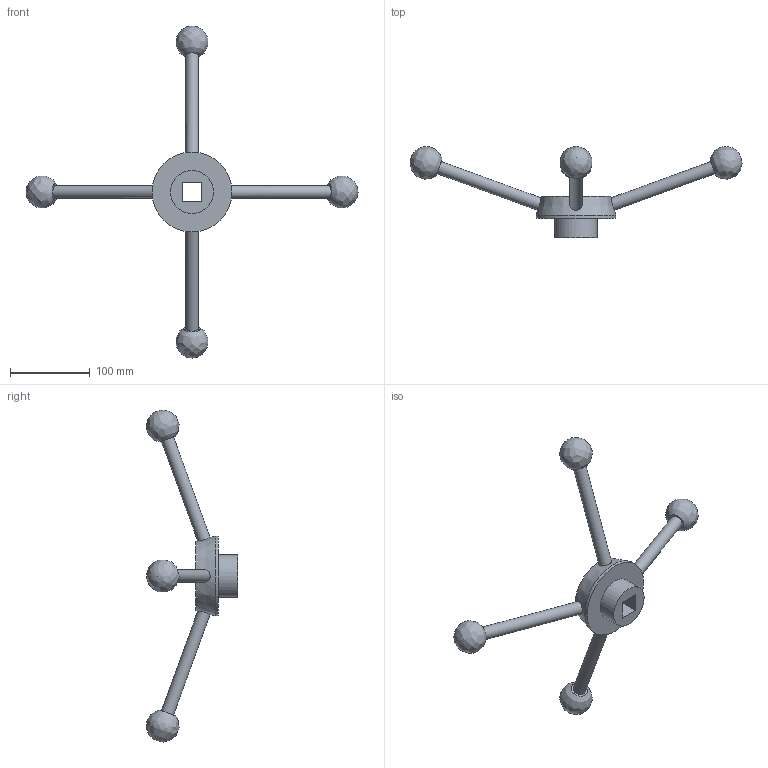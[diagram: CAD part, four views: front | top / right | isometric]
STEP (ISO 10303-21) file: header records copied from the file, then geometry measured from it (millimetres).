
FILE_DESCRIPTION( ( 'STEP AP203' ), '1' );
FILE_NAME( 'C:/Temp/Ganter_Step_05_03_2020/data/2_1/gn_213/gn_213_v/Turret lever GN 213-100-V24.stp', '2020-03-05T11:51:24', ( 'License CC BY-ND 4.0' ), ( 'CADENAS' ), ' ', 'PARTsolutions', ' ' );
FILE_SCHEMA( ( 'CONFIG_CONTROL_DESIGN' ) );
Length unit declared in the file: millimetre
Products named in the file (1): _Turret lever GN 213-100-V24
Bounding box: 415.3 x 113.97 x 415.3 mm (x, y, z)
Volume: 467345.6 mm3; surface area: 76207.3 mm2
Topology: 1 solids, 1 shells, 22 faces, 50 edges, 34 vertices
Faces by surface type: plane 11, cylinder 6, bspline 4, cone 1
Full cylindrical faces by diameter (mm): 16 x4, 54 x1, 100 x1
Entity records: 982 total; most frequent: CARTESIAN_POINT 541, DIRECTION 76, ORIENTED_EDGE 58, EDGE_LOOP 40, AXIS2_PLACEMENT_3D 32, VERTEX_POINT 29, EDGE_CURVE 29, FACE_OUTER_BOUND 28
